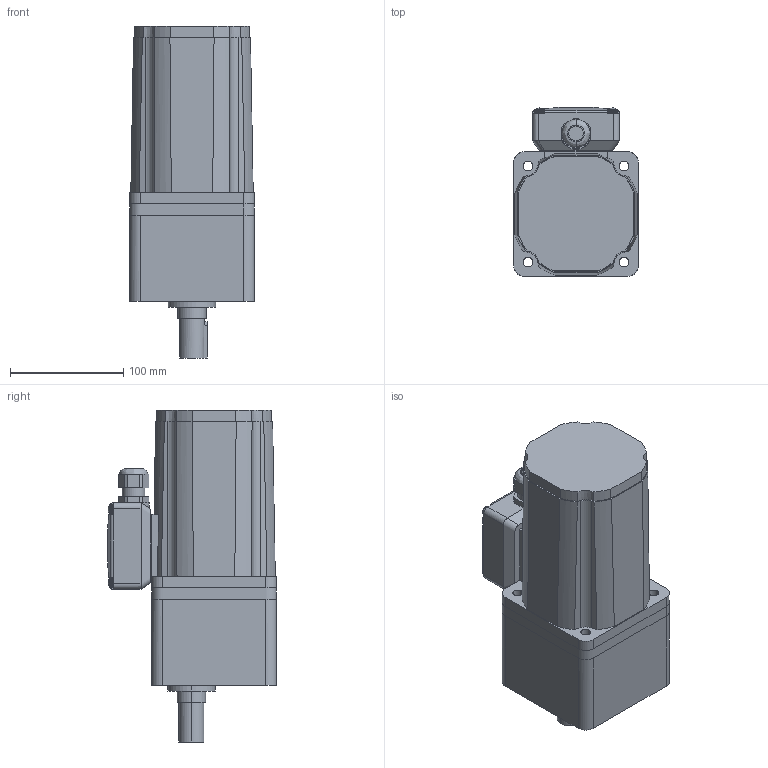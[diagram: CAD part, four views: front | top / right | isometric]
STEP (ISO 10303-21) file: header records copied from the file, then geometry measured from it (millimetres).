
FILE_DESCRIPTION (( 'STEP AP203' ), '1' );
FILE_NAME ('A1723C.step', '2020-01-22T00:20:28', ( '' ), ( '' ), 'SwSTEP 2.0', 'SolidWorks 2017', '' );
FILE_SCHEMA (( 'CONFIG_CONTROL_DESIGN' ));
Length unit declared in the file: millimetre
Products named in the file (1): A1723C
Bounding box: 110 x 149 x 293 mm (x, y, z)
Volume: 2745438 mm3; surface area: 179065.2 mm2
Topology: 2 solids, 2 shells, 279 faces, 726 edges, 478 vertices
Faces by surface type: cylinder 134, plane 97, cone 26, bspline 22
Entity records: 9637 total; most frequent: CARTESIAN_POINT 2580, DIRECTION 1509, ORIENTED_EDGE 1448, EDGE_CURVE 724, AXIS2_PLACEMENT_3D 593, VERTEX_POINT 478, CIRCLE 335, EDGE_LOOP 324
